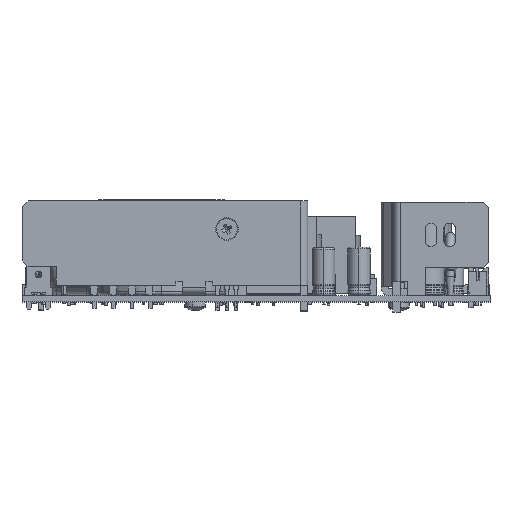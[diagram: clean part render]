
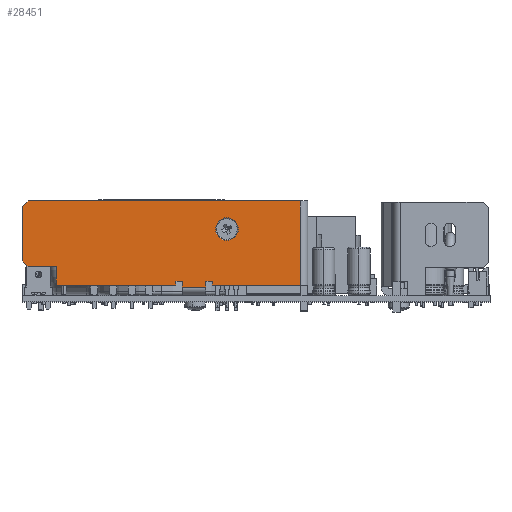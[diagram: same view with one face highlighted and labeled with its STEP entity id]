
A CAD part, top view. The second image highlights one B-rep face of the part: STEP entity #28451.
In plain terms, the highlighted planar face has unit normal (0, 0, 1) as drawn and (0, 0, -1) by its records, which use the part's own axes.
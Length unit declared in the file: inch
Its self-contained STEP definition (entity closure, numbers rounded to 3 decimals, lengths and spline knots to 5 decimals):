
#15090 = CARTESIAN_POINT ( 'NONE',  ( 0.987, 0.875, -0.25 ) ) ;
#15127 = CARTESIAN_POINT ( 'NONE',  ( 0.743, 0.875, -0.25 ) ) ;
#15155 = DIRECTION ( 'NONE',  ( 1., 0., 0. ) ) ;
#15156 = DIRECTION ( 'NONE',  ( 0., 0., 1. ) ) ;
#15157 = CARTESIAN_POINT ( 'NONE',  ( 0.865, 0.875, -0.25 ) ) ;
#15158 = AXIS2_PLACEMENT_3D ( 'NONE', #15157, #15156, #15155 ) ;
#15159 = CIRCLE ( 'NONE', #15158, 0.122 ) ;
#15278 = CARTESIAN_POINT ( 'NONE',  ( 0.08, 0.275, -0.25 ) ) ;
#15282 = VECTOR ( 'NONE', #15311, 39.37008 ) ;
#15311 = DIRECTION ( 'NONE',  ( 0., -1., 0. ) ) ;
#15322 = CARTESIAN_POINT ( 'NONE',  ( 0.08, 1.175, -0.25 ) ) ;
#15323 = LINE ( 'NONE', #15322, #15282 ) ;
#15339 = CARTESIAN_POINT ( 'NONE',  ( 0.08, 1.175, -0.25 ) ) ;
#15508 = CARTESIAN_POINT ( 'NONE',  ( 1.08999, 0.2555, -0.25 ) ) ;
#15563 = CARTESIAN_POINT ( 'NONE',  ( 2.69003, 0.475, -0.25 ) ) ;
#15575 = FACE_BOUND ( 'NONE', #28475, .T. ) ;
#15579 = CARTESIAN_POINT ( 'NONE',  ( 1.02005, 0.31556, -0.25 ) ) ;
#15582 = AXIS2_PLACEMENT_3D ( 'NONE', #15675, #15674, #15673 ) ;
#15583 = CARTESIAN_POINT ( 'NONE',  ( 2.99, 0.475, -0.25 ) ) ;
#15584 = DIRECTION ( 'NONE',  ( 1., -0.001, 0. ) ) ;
#15585 = VECTOR ( 'NONE', #15584, 39.37008 ) ;
#15586 = CARTESIAN_POINT ( 'NONE',  ( 1.41005, 0.3152, -0.25 ) ) ;
#15587 = LINE ( 'NONE', #15586, #15585 ) ;
#15588 = FACE_OUTER_BOUND ( 'NONE', #28456, .T. ) ;
#15589 = DIRECTION ( 'NONE',  ( -0.001, -1., 0. ) ) ;
#15590 = VECTOR ( 'NONE', #15589, 39.37008 ) ;
#15591 = CARTESIAN_POINT ( 'NONE',  ( 1.41005, 0.3152, -0.25 ) ) ;
#15592 = LINE ( 'NONE', #15591, #15590 ) ;
#15594 = DIRECTION ( 'NONE',  ( 1., 0., 0. ) ) ;
#15595 = VECTOR ( 'NONE', #15594, 39.37008 ) ;
#15596 = CARTESIAN_POINT ( 'NONE',  ( 2.69003, 0.275, -0.25 ) ) ;
#15597 = LINE ( 'NONE', #15596, #15595 ) ;
#15598 = AXIS2_PLACEMENT_3D ( 'NONE', #15617, #15616, #15615 ) ;
#15599 = DIRECTION ( 'NONE',  ( 0.001, 1., 0. ) ) ;
#15600 = VECTOR ( 'NONE', #15599, 39.37008 ) ;
#15601 = CARTESIAN_POINT ( 'NONE',  ( 1.34005, 0.31527, -0.25 ) ) ;
#15602 = LINE ( 'NONE', #15601, #15600 ) ;
#15603 = CARTESIAN_POINT ( 'NONE',  ( 1.33999, 0.25527, -0.25 ) ) ;
#15604 = DIRECTION ( 'NONE',  ( 0., 1., 0. ) ) ;
#15605 = VECTOR ( 'NONE', #15604, 39.37008 ) ;
#15606 = CARTESIAN_POINT ( 'NONE',  ( 2.69003, 0.475, -0.25 ) ) ;
#15607 = CARTESIAN_POINT ( 'NONE',  ( 1.41005, 0.3152, -0.25 ) ) ;
#15608 = LINE ( 'NONE', #15606, #15605 ) ;
#15609 = DIRECTION ( 'NONE',  ( 1., -0.001, 0. ) ) ;
#15610 = VECTOR ( 'NONE', #15609, 39.37008 ) ;
#15611 = CARTESIAN_POINT ( 'NONE',  ( 1.09005, 0.3155, -0.25 ) ) ;
#15612 = LINE ( 'NONE', #15611, #15610 ) ;
#15615 = DIRECTION ( 'NONE',  ( 1., 0., 0. ) ) ;
#15616 = DIRECTION ( 'NONE',  ( 0., 0., 1. ) ) ;
#15617 = CARTESIAN_POINT ( 'NONE',  ( 0.08, 1.175, -0.25 ) ) ;
#15619 = CARTESIAN_POINT ( 'NONE',  ( 1.41001, 0.275, -0.25 ) ) ;
#15620 = CARTESIAN_POINT ( 'NONE',  ( 2.69003, 0.275, -0.25 ) ) ;
#15621 = CIRCLE ( 'NONE', #15582, 0.122 ) ;
#15639 = PLANE ( 'NONE',  #15598 ) ;
#15650 = LINE ( 'NONE', #15697, #15696 ) ;
#15658 = CARTESIAN_POINT ( 'NONE',  ( 3.05, 1.115, -0.25 ) ) ;
#15660 = DIRECTION ( 'NONE',  ( -0.707, -0.707, 0. ) ) ;
#15661 = VECTOR ( 'NONE', #15660, 39.37008 ) ;
#15662 = CARTESIAN_POINT ( 'NONE',  ( 3.05, 0.535, -0.25 ) ) ;
#15663 = LINE ( 'NONE', #15662, #15661 ) ;
#15665 = DIRECTION ( 'NONE',  ( 1., 0., 0. ) ) ;
#15666 = VECTOR ( 'NONE', #15665, 39.37008 ) ;
#15667 = CARTESIAN_POINT ( 'NONE',  ( 3.05, 0.475, -0.25 ) ) ;
#15672 = CARTESIAN_POINT ( 'NONE',  ( 3.05, 0.535, -0.25 ) ) ;
#15673 = DIRECTION ( 'NONE',  ( 1., 0., 0. ) ) ;
#15674 = DIRECTION ( 'NONE',  ( 0., 0., 1. ) ) ;
#15675 = CARTESIAN_POINT ( 'NONE',  ( 0.865, 0.875, -0.25 ) ) ;
#15677 = LINE ( 'NONE', #15667, #15666 ) ;
#15695 = DIRECTION ( 'NONE',  ( 0., -1., 0. ) ) ;
#15696 = VECTOR ( 'NONE', #15695, 39.37008 ) ;
#15697 = CARTESIAN_POINT ( 'NONE',  ( 3.05, 1.175, -0.25 ) ) ;
#15730 = CARTESIAN_POINT ( 'NONE',  ( 0.08, 1.175, -0.25 ) ) ;
#15731 = LINE ( 'NONE', #15730, #15816 ) ;
#15807 = DIRECTION ( 'NONE',  ( 0.707, -0.707, 0. ) ) ;
#15808 = VECTOR ( 'NONE', #15807, 39.37008 ) ;
#15809 = CARTESIAN_POINT ( 'NONE',  ( 1.09005, 0.3155, -0.25 ) ) ;
#15810 = CARTESIAN_POINT ( 'NONE',  ( 1.02001, 0.275, -0.25 ) ) ;
#15811 = CARTESIAN_POINT ( 'NONE',  ( 2.99, 1.175, -0.25 ) ) ;
#15812 = LINE ( 'NONE', #15811, #15808 ) ;
#15813 = CARTESIAN_POINT ( 'NONE',  ( 0.07915, 0.25644, -0.25 ) ) ;
#15814 = LINE ( 'NONE', #15813, #15864 ) ;
#15815 = DIRECTION ( 'NONE',  ( -1., 0., 0. ) ) ;
#15816 = VECTOR ( 'NONE', #15815, 39.37008 ) ;
#15817 = DIRECTION ( 'NONE',  ( -1., 0., 0. ) ) ;
#15818 = VECTOR ( 'NONE', #15817, 39.37008 ) ;
#15819 = CARTESIAN_POINT ( 'NONE',  ( 3.05004, 0.275, -0.25 ) ) ;
#15820 = LINE ( 'NONE', #15861, #15860 ) ;
#15822 = LINE ( 'NONE', #15819, #15818 ) ;
#15823 = CARTESIAN_POINT ( 'NONE',  ( 2.99, 1.175, -0.25 ) ) ;
#15828 = CARTESIAN_POINT ( 'NONE',  ( 1.34005, 0.31527, -0.25 ) ) ;
#15853 = DIRECTION ( 'NONE',  ( -0.001, -1., 0. ) ) ;
#15854 = VECTOR ( 'NONE', #15853, 39.37008 ) ;
#15855 = CARTESIAN_POINT ( 'NONE',  ( 1.09005, 0.3155, -0.25 ) ) ;
#15856 = LINE ( 'NONE', #15855, #15854 ) ;
#15859 = DIRECTION ( 'NONE',  ( 0.001, 1., 0. ) ) ;
#15860 = VECTOR ( 'NONE', #15859, 39.37008 ) ;
#15861 = CARTESIAN_POINT ( 'NONE',  ( 1.02005, 0.31556, -0.25 ) ) ;
#15863 = DIRECTION ( 'NONE',  ( -1., 0.001, 0. ) ) ;
#15864 = VECTOR ( 'NONE', #15863, 39.37008 ) ;
#28148 = VERTEX_POINT ( 'NONE', #15090 ) ;
#28159 = VERTEX_POINT ( 'NONE', #15127 ) ;
#28161 = EDGE_CURVE ( 'NONE', #28159, #28148, #15159, .T. ) ;
#28288 = VERTEX_POINT ( 'NONE', #15278 ) ;
#28291 = EDGE_CURVE ( 'NONE', #28313, #28288, #15323, .T. ) ;
#28313 = VERTEX_POINT ( 'NONE', #15339 ) ;
#28361 = ORIENTED_EDGE ( 'NONE', *, *, #28439, .F. ) ;
#28410 = EDGE_CURVE ( 'NONE', #28416, #28535, #15612, .T. ) ;
#28414 = ORIENTED_EDGE ( 'NONE', *, *, #28410, .F. ) ;
#28416 = VERTEX_POINT ( 'NONE', #15579 ) ;
#28417 = VERTEX_POINT ( 'NONE', #15563 ) ;
#28418 = VERTEX_POINT ( 'NONE', #15508 ) ;
#28419 = ORIENTED_EDGE ( 'NONE', *, *, #28461, .F. ) ;
#28420 = EDGE_CURVE ( 'NONE', #28459, #28417, #15608, .T. ) ;
#28423 = EDGE_CURVE ( 'NONE', #28437, #28531, #15602, .T. ) ;
#28425 = VERTEX_POINT ( 'NONE', #15607 ) ;
#28428 = EDGE_CURVE ( 'NONE', #28457, #28459, #15597, .T. ) ;
#28430 = ORIENTED_EDGE ( 'NONE', *, *, #28423, .F. ) ;
#28431 = ORIENTED_EDGE ( 'NONE', *, *, #28428, .F. ) ;
#28432 = EDGE_CURVE ( 'NONE', #28425, #28457, #15592, .T. ) ;
#28434 = ORIENTED_EDGE ( 'NONE', *, *, #28538, .T. ) ;
#28437 = VERTEX_POINT ( 'NONE', #15603 ) ;
#28439 = EDGE_CURVE ( 'NONE', #28531, #28425, #15587, .T. ) ;
#28444 = ORIENTED_EDGE ( 'NONE', *, *, #28478, .T. ) ;
#28448 = ORIENTED_EDGE ( 'NONE', *, *, #28432, .F. ) ;
#28450 = ORIENTED_EDGE ( 'NONE', *, *, #28291, .F. ) ;
#28451 = ADVANCED_FACE ( 'NONE', ( #15575, #15588 ), #15639, .F. ) ;
#28452 = EDGE_CURVE ( 'NONE', #28148, #28159, #15621, .T. ) ;
#28454 = VERTEX_POINT ( 'NONE', #15583 ) ;
#28455 = ORIENTED_EDGE ( 'NONE', *, *, #28452, .T. ) ;
#28456 = EDGE_LOOP ( 'NONE', ( #28444, #28466, #28419, #28458, #28431, #28448, #28361, #28430, #28434, #28545, #28414, #28544, #28517, #28450, #28526, #28529 ) ) ;
#28457 = VERTEX_POINT ( 'NONE', #15619 ) ;
#28458 = ORIENTED_EDGE ( 'NONE', *, *, #28420, .F. ) ;
#28459 = VERTEX_POINT ( 'NONE', #15620 ) ;
#28461 = EDGE_CURVE ( 'NONE', #28417, #28454, #15677, .T. ) ;
#28465 = ORIENTED_EDGE ( 'NONE', *, *, #28161, .T. ) ;
#28466 = ORIENTED_EDGE ( 'NONE', *, *, #28469, .T. ) ;
#28469 = EDGE_CURVE ( 'NONE', #28470, #28454, #15663, .T. ) ;
#28470 = VERTEX_POINT ( 'NONE', #15672 ) ;
#28475 = EDGE_LOOP ( 'NONE', ( #28465, #28455 ) ) ;
#28476 = VERTEX_POINT ( 'NONE', #15658 ) ;
#28478 = EDGE_CURVE ( 'NONE', #28476, #28470, #15650, .T. ) ;
#28514 = VERTEX_POINT ( 'NONE', #15823 ) ;
#28515 = EDGE_CURVE ( 'NONE', #28533, #28288, #15822, .T. ) ;
#28517 = ORIENTED_EDGE ( 'NONE', *, *, #28515, .T. ) ;
#28525 = EDGE_CURVE ( 'NONE', #28514, #28313, #15731, .T. ) ;
#28526 = ORIENTED_EDGE ( 'NONE', *, *, #28525, .F. ) ;
#28527 = EDGE_CURVE ( 'NONE', #28514, #28476, #15812, .T. ) ;
#28529 = ORIENTED_EDGE ( 'NONE', *, *, #28527, .T. ) ;
#28531 = VERTEX_POINT ( 'NONE', #15828 ) ;
#28533 = VERTEX_POINT ( 'NONE', #15810 ) ;
#28535 = VERTEX_POINT ( 'NONE', #15809 ) ;
#28538 = EDGE_CURVE ( 'NONE', #28437, #28418, #15814, .T. ) ;
#28540 = EDGE_CURVE ( 'NONE', #28533, #28416, #15820, .T. ) ;
#28541 = EDGE_CURVE ( 'NONE', #28535, #28418, #15856, .T. ) ;
#28544 = ORIENTED_EDGE ( 'NONE', *, *, #28540, .F. ) ;
#28545 = ORIENTED_EDGE ( 'NONE', *, *, #28541, .F. ) ;
